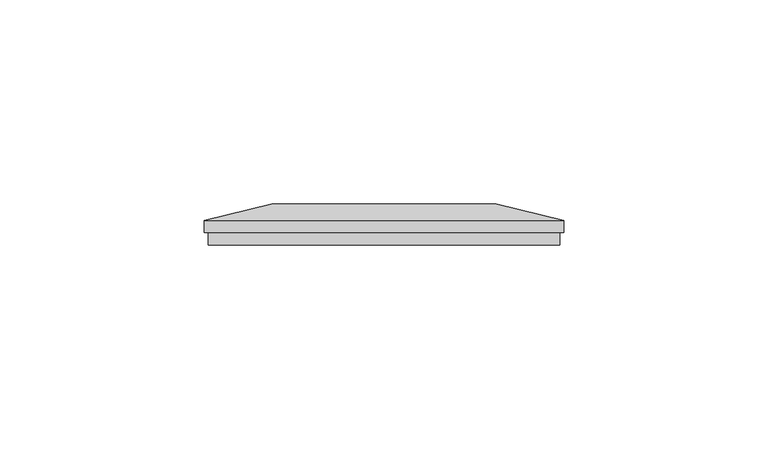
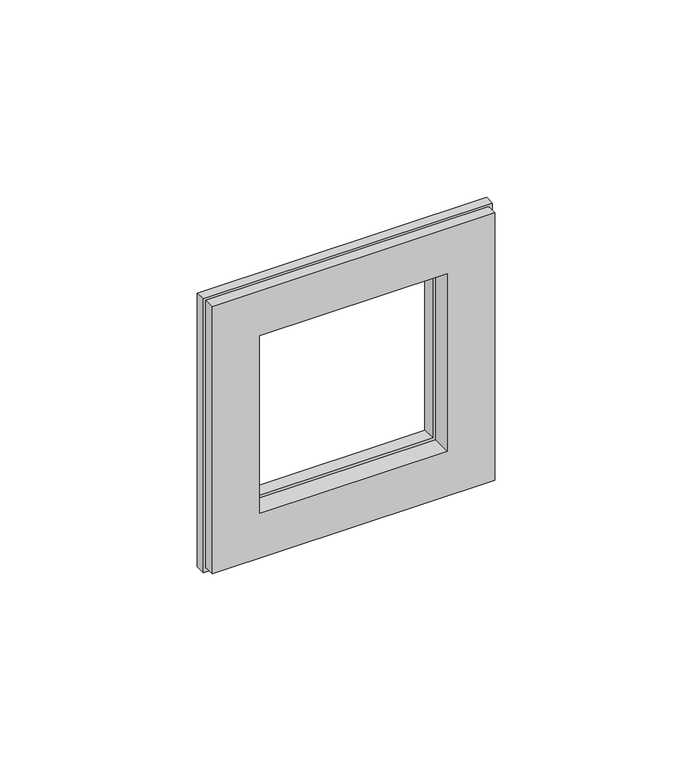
"""IFC4 building model written with IfcOpenShell, lengths in millimetres: proxy geometry, IEK_Brite_Рамка : x1_РУ-1-Бр алюм.-алюм.."""

from ifc_helpers import new_model, si_unit, frame, origin, place, context, project, spatial, polyline, outline, extrude, faceted_brep, source, transform, mapped, element, save


def electrical_fixtures_55454e97(model_context):
    return source(origin(), model_context, "Body", "SolidModel", [
        extrude(outline(polyline([(43.0, -43.0), (-43.0, -43.0), (-43.0, 43.0), (43.0, 43.0), (43.0, -43.0)]), holes=[polyline([(28.5, -28.5), (28.5, 28.5), (-28.5, 28.5), (-28.5, -28.5), (28.5, -28.5)])]), frame((0.0, 0.0, 0.0), z_axis=(0.0, 1.0, 0.0), x_axis=(0.0, 0.0, 1.0)), (0.0, 0.0, 1.0), 6.0),
        faceted_brep([(43.0, 6.0, 43.0), (-43.0, 6.0, 43.0), (-43.0, 6.0, -43.0), (43.0, 6.0, -43.0), (-27.5, 6.0, -27.5), (-27.5, 6.0, 27.5), (27.5, 6.0, 27.5), (27.5, 6.0, -27.5), (44.0, 6.0, 44.0), (27.5, 10.0, 27.5), (-27.5, 10.0, 27.5), (-44.0, 6.0, 44.0), (44.0, 6.0, -44.0), (27.5, 10.0, -27.5), (-44.0, 6.0, -44.0), (-27.5, 10.0, -27.5), (-44.0, 3.0, 44.0), (-44.0, 3.0, -44.0), (44.0, 3.0, -44.0), (44.0, 3.0, 44.0), (-43.0, 3.0, 43.0), (43.0, 3.0, 43.0), (43.0, 3.0, -43.0), (-43.0, 3.0, -43.0)], [[[0, 1, 2, 3], [4, 5, 6, 7]], [[8, 9, 10, 11]], [[9, 8, 12, 13]], [[13, 12, 14, 15]], [[11, 10, 15, 14]], [[16, 17, 18, 19], [20, 21, 22, 23]], [[17, 16, 11, 14]], [[18, 17, 14, 12]], [[19, 18, 12, 8]], [[16, 19, 8, 11]], [[21, 20, 1, 0]], [[22, 21, 0, 3]], [[23, 22, 3, 2]], [[20, 23, 2, 1]], [[10, 5, 4, 15]], [[15, 4, 7, 13]], [[13, 7, 6, 9]], [[5, 10, 9, 6]]]),
    ])


if __name__ == "__main__":
    model = new_model("IFC4")
    model_context = context("Model", 3, world=origin())
    ifc_project = project(units=[si_unit("LENGTHUNIT", "METRE", prefix="MILLI")], contexts=[model_context])
    site = spatial("IfcSite", under=ifc_project)
    building = spatial("IfcBuilding", under=site)
    placement = place(None, origin())
    electrical_fixtures_shape = electrical_fixtures_55454e97(model_context)
    element("IfcBuildingElementProxy", 1, Name="IEK_Brite_Рамка : x1_РУ-1-Бр алюм.-алюм.", ObjectType="IEK_Brite_Рамка : x1_РУ-1-Бр алюм.-алюм.", at=placement, inside=building, context=model_context, shape_type="MappedRepresentation", body=[
        mapped(electrical_fixtures_shape, transform((0.0, 0.0, 0.0), x_axis=(1.0, 0.0, 0.0), y_axis=(0.0, 1.0, 0.0), z_axis=(0.0, 0.0, 1.0))),
    ])
    save(model, "model.ifc")
